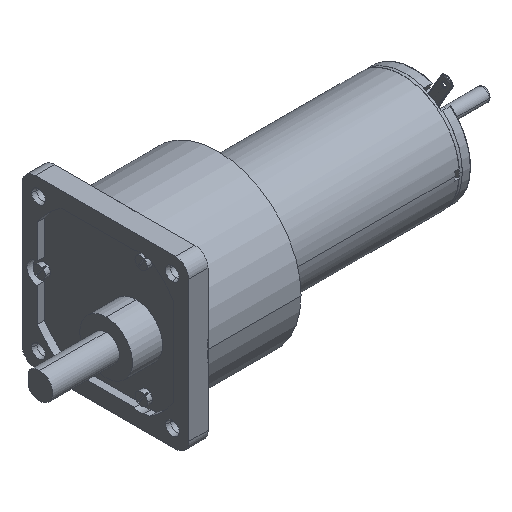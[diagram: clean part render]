
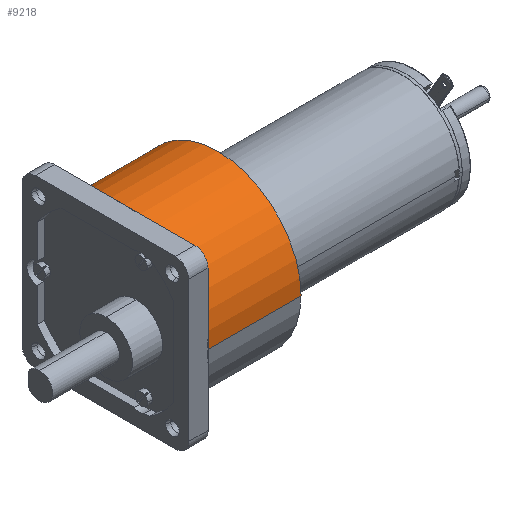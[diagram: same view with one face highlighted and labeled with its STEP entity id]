
A CAD part, isometric view. The second image highlights one B-rep face of the part: STEP entity #9218.
In plain terms, the highlighted cylindrical face has radius 19 mm (diameter 38 mm), a partial arc.
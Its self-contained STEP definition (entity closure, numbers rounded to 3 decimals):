
#83 = CARTESIAN_POINT ( 'NONE',  ( 4.4, 0., 7. ) ) ;
#151 = DIRECTION ( 'NONE',  ( 0., 0., -1. ) ) ;
#1141 = ORIENTED_EDGE ( 'NONE', *, *, #17147, .F. ) ;
#1197 = EDGE_CURVE ( 'NONE', #15957, #9103, #3615, .T. ) ;
#1712 = EDGE_CURVE ( 'NONE', #19363, #15957, #9142, .T. ) ;
#1869 = CARTESIAN_POINT ( 'NONE',  ( 4.4, -19., 7. ) ) ;
#2291 = LINE ( 'NONE', #3017, #9968 ) ;
#2607 = ORIENTED_EDGE ( 'NONE', *, *, #5588, .T. ) ;
#3017 = CARTESIAN_POINT ( 'NONE',  ( 4.4, 0., -12. ) ) ;
#3615 = CIRCLE ( 'NONE', #16147, 19. ) ;
#3686 = VECTOR ( 'NONE', #6995, 1000. ) ;
#3870 = CARTESIAN_POINT ( 'NONE',  ( 25.6, 0., 7. ) ) ;
#4944 = CARTESIAN_POINT ( 'NONE',  ( 25.6, 0., -12. ) ) ;
#4947 = AXIS2_PLACEMENT_3D ( 'NONE', #83, #12322, #151 ) ;
#5192 = DIRECTION ( 'NONE',  ( 1., 0., 0. ) ) ;
#5211 = CARTESIAN_POINT ( 'NONE',  ( 4.4, 0., 7. ) ) ;
#5408 = DIRECTION ( 'NONE',  ( 0., 0., -1. ) ) ;
#5588 = EDGE_CURVE ( 'NONE', #9103, #11545, #2291, .T. ) ;
#6447 = EDGE_CURVE ( 'NONE', #19363, #17013, #19535, .T. ) ;
#6777 = DIRECTION ( 'NONE',  ( 0., 0., -1. ) ) ;
#6995 = DIRECTION ( 'NONE',  ( 1., 0., 0. ) ) ;
#7199 = CYLINDRICAL_SURFACE ( 'NONE', #4947, 19. ) ;
#9103 = VERTEX_POINT ( 'NONE', #9536 ) ;
#9142 = CIRCLE ( 'NONE', #17063, 19. ) ;
#9218 = ADVANCED_FACE ( 'NONE', ( #12675 ), #7199, .T. ) ;
#9404 = ORIENTED_EDGE ( 'NONE', *, *, #1197, .T. ) ;
#9536 = CARTESIAN_POINT ( 'NONE',  ( 4.4, 0., -12. ) ) ;
#9832 = CARTESIAN_POINT ( 'NONE',  ( 4.4, 0., 26. ) ) ;
#9968 = VECTOR ( 'NONE', #15219, 1000. ) ;
#11545 = VERTEX_POINT ( 'NONE', #4944 ) ;
#12322 = DIRECTION ( 'NONE',  ( 1., 0., 0. ) ) ;
#12606 = ORIENTED_EDGE ( 'NONE', *, *, #6447, .F. ) ;
#12675 = FACE_OUTER_BOUND ( 'NONE', #17781, .T. ) ;
#13013 = CARTESIAN_POINT ( 'NONE',  ( 4.4, 0., 26. ) ) ;
#13984 = CARTESIAN_POINT ( 'NONE',  ( 25.6, 0., 26. ) ) ;
#14361 = CARTESIAN_POINT ( 'NONE',  ( 4.4, 0., 7. ) ) ;
#14440 = ORIENTED_EDGE ( 'NONE', *, *, #1712, .T. ) ;
#14581 = DIRECTION ( 'NONE',  ( 1., 0., 0. ) ) ;
#15079 = AXIS2_PLACEMENT_3D ( 'NONE', #3870, #14581, #5408 ) ;
#15219 = DIRECTION ( 'NONE',  ( 1., 0., 0. ) ) ;
#15689 = CIRCLE ( 'NONE', #15079, 19. ) ;
#15940 = DIRECTION ( 'NONE',  ( 0., 0., -1. ) ) ;
#15957 = VERTEX_POINT ( 'NONE', #1869 ) ;
#15968 = DIRECTION ( 'NONE',  ( 1., 0., 0. ) ) ;
#16147 = AXIS2_PLACEMENT_3D ( 'NONE', #5211, #15968, #6777 ) ;
#17013 = VERTEX_POINT ( 'NONE', #13984 ) ;
#17063 = AXIS2_PLACEMENT_3D ( 'NONE', #14361, #5192, #15940 ) ;
#17147 = EDGE_CURVE ( 'NONE', #17013, #11545, #15689, .T. ) ;
#17781 = EDGE_LOOP ( 'NONE', ( #12606, #14440, #9404, #2607, #1141 ) ) ;
#19363 = VERTEX_POINT ( 'NONE', #9832 ) ;
#19535 = LINE ( 'NONE', #13013, #3686 ) ;
